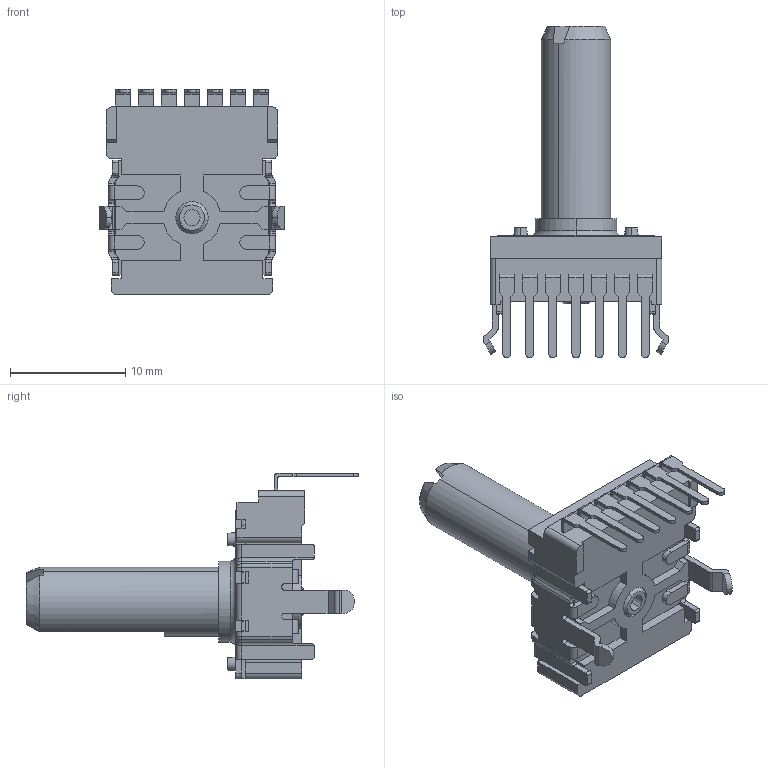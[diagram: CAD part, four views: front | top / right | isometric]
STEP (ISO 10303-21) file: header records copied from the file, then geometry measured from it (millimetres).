
FILE_DESCRIPTION (( 'STEP AP203' ), '1' );
FILE_NAME ('P140KH-F25.STEP', '2026-09-15T19:13:10', ( '' ), ( '' ), 'SwSTEP 2.0', 'SolidWorks 2026', '' );
FILE_SCHEMA (( 'CONFIG_CONTROL_DESIGN' ));
Length unit declared in the file: millimetre
Products named in the file (7): F25; Housing; spring_plate; KH bracket; V-terminal; KH-housing; P140KH-F25
Assembly tree (12 placements, depth 3):
  P140KH-F25
    KH-housing
      Housing
      V-terminal  x7
    F25
    spring_plate
    KH bracket
Bounding box: 16.1 x 28.8 x 17.85 mm (x, y, z)
Volume: 1424.1 mm3; surface area: 2731.9 mm2
Topology: 11 solids, 11 shells, 595 faces, 1632 edges, 1052 vertices
Faces by surface type: plane 376, cylinder 189, bspline 12, cone 8, torus 6, sphere 4
Entity records: 17299 total; most frequent: CARTESIAN_POINT 3227, ORIENTED_EDGE 2816, DIRECTION 2696, EDGE_CURVE 1408, VECTOR 998, LINE 998, VERTEX_POINT 908, AXIS2_PLACEMENT_3D 849
